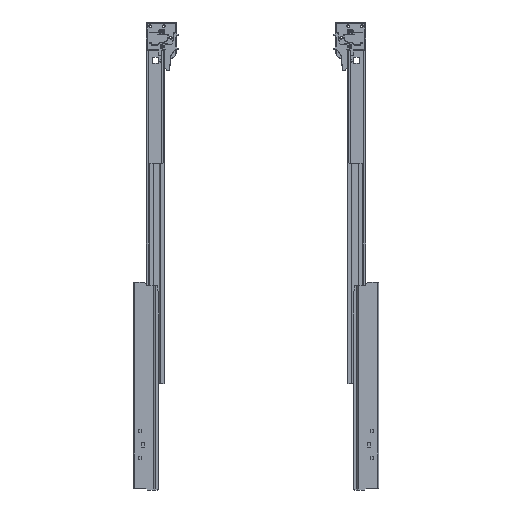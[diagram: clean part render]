
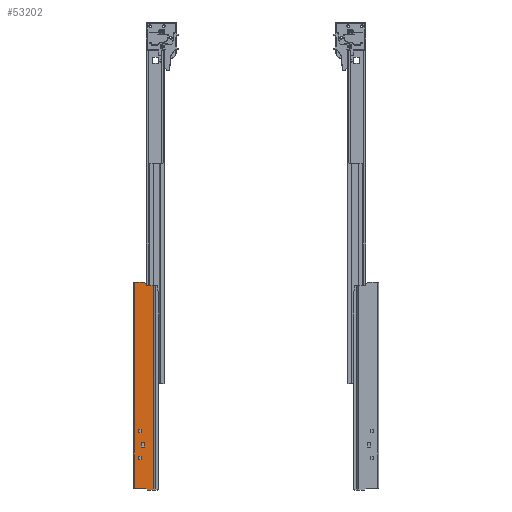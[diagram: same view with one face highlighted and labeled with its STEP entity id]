
A CAD part, front view. The second image highlights one B-rep face of the part: STEP entity #53202.
In plain terms, the highlighted planar face has unit normal (0, -1, 0).
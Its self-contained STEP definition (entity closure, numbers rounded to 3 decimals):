
#4365=FACE_BOUND('',#12797,.T.);
#4366=FACE_BOUND('',#12798,.T.);
#4367=FACE_BOUND('',#12799,.T.);
#6057=CIRCLE('',#56688,2.);
#6058=CIRCLE('',#56689,2.);
#9818=FACE_OUTER_BOUND('',#12796,.T.);
#12796=EDGE_LOOP('',(#33359,#33360,#33361,#33362,#33363,#33364,#33365,#33366,
#33367,#33368));
#12797=EDGE_LOOP('',(#33369,#33370,#33371,#33372));
#12798=EDGE_LOOP('',(#33373,#33374,#33375,#33376));
#12799=EDGE_LOOP('',(#33377,#33378,#33379,#33380));
#16511=LINE('',#77256,#18531);
#16515=LINE('',#77264,#18535);
#16518=LINE('',#77270,#18538);
#16521=LINE('',#77275,#18541);
#16523=LINE('',#77281,#18543);
#16527=LINE('',#77289,#18547);
#16530=LINE('',#77295,#18550);
#16533=LINE('',#77300,#18553);
#16535=LINE('',#77306,#18555);
#16539=LINE('',#77314,#18559);
#16542=LINE('',#77320,#18562);
#16545=LINE('',#77325,#18565);
#16547=LINE('',#77331,#18567);
#16562=LINE('',#77379,#18582);
#16570=LINE('',#77399,#18590);
#16571=LINE('',#77403,#18591);
#16572=LINE('',#77405,#18592);
#16573=LINE('',#77407,#18593);
#16574=LINE('',#77411,#18594);
#16575=LINE('',#77414,#18595);
#18531=VECTOR('',#62850,6.);
#18535=VECTOR('',#62856,3.5);
#18538=VECTOR('',#62861,6.);
#18541=VECTOR('',#62866,3.5);
#18543=VECTOR('',#62872,6.);
#18547=VECTOR('',#62878,3.5);
#18550=VECTOR('',#62883,6.);
#18553=VECTOR('',#62888,3.5);
#18555=VECTOR('',#62894,8.);
#18559=VECTOR('',#62900,5.);
#18562=VECTOR('',#62905,8.);
#18565=VECTOR('',#62910,5.);
#18567=VECTOR('',#62916,4.243);
#18582=VECTOR('',#62951,18.);
#18590=VECTOR('',#62971,336.);
#18591=VECTOR('',#62976,9.5);
#18592=VECTOR('',#62977,334.);
#18593=VECTOR('',#62978,9.672);
#18594=VECTOR('',#62981,5.414);
#18595=VECTOR('',#62984,14.172);
#20551=VERTEX_POINT('',#77254);
#20552=VERTEX_POINT('',#77255);
#20555=VERTEX_POINT('',#77263);
#20557=VERTEX_POINT('',#77269);
#20559=VERTEX_POINT('',#77279);
#20560=VERTEX_POINT('',#77280);
#20563=VERTEX_POINT('',#77288);
#20565=VERTEX_POINT('',#77294);
#20567=VERTEX_POINT('',#77304);
#20568=VERTEX_POINT('',#77305);
#20571=VERTEX_POINT('',#77313);
#20573=VERTEX_POINT('',#77319);
#20575=VERTEX_POINT('',#77329);
#20576=VERTEX_POINT('',#77330);
#20599=VERTEX_POINT('',#77378);
#20605=VERTEX_POINT('',#77398);
#20606=VERTEX_POINT('',#77402);
#20607=VERTEX_POINT('',#77404);
#20608=VERTEX_POINT('',#77406);
#20609=VERTEX_POINT('',#77408);
#20610=VERTEX_POINT('',#77410);
#20611=VERTEX_POINT('',#77412);
#25261=EDGE_CURVE('',#20551,#20552,#16511,.T.);
#25265=EDGE_CURVE('',#20552,#20555,#16515,.T.);
#25268=EDGE_CURVE('',#20555,#20557,#16518,.T.);
#25271=EDGE_CURVE('',#20557,#20551,#16521,.T.);
#25273=EDGE_CURVE('',#20559,#20560,#16523,.T.);
#25277=EDGE_CURVE('',#20560,#20563,#16527,.T.);
#25280=EDGE_CURVE('',#20563,#20565,#16530,.T.);
#25283=EDGE_CURVE('',#20565,#20559,#16533,.T.);
#25285=EDGE_CURVE('',#20567,#20568,#16535,.T.);
#25289=EDGE_CURVE('',#20568,#20571,#16539,.T.);
#25292=EDGE_CURVE('',#20571,#20573,#16542,.T.);
#25295=EDGE_CURVE('',#20573,#20567,#16545,.T.);
#25297=EDGE_CURVE('',#20575,#20576,#16547,.T.);
#25321=EDGE_CURVE('',#20599,#20575,#16562,.T.);
#25331=EDGE_CURVE('',#20605,#20599,#16570,.T.);
#25333=EDGE_CURVE('',#20606,#20576,#16571,.T.);
#25334=EDGE_CURVE('',#20607,#20606,#16572,.T.);
#25335=EDGE_CURVE('',#20607,#20608,#16573,.T.);
#25336=EDGE_CURVE('',#20609,#20608,#6057,.T.);
#25337=EDGE_CURVE('',#20609,#20610,#16574,.T.);
#25338=EDGE_CURVE('',#20611,#20610,#6058,.T.);
#25339=EDGE_CURVE('',#20605,#20611,#16575,.T.);
#33359=ORIENTED_EDGE('',*,*,#25321,.T.);
#33360=ORIENTED_EDGE('',*,*,#25297,.T.);
#33361=ORIENTED_EDGE('',*,*,#25333,.F.);
#33362=ORIENTED_EDGE('',*,*,#25334,.F.);
#33363=ORIENTED_EDGE('',*,*,#25335,.T.);
#33364=ORIENTED_EDGE('',*,*,#25336,.F.);
#33365=ORIENTED_EDGE('',*,*,#25337,.T.);
#33366=ORIENTED_EDGE('',*,*,#25338,.F.);
#33367=ORIENTED_EDGE('',*,*,#25339,.F.);
#33368=ORIENTED_EDGE('',*,*,#25331,.T.);
#33369=ORIENTED_EDGE('',*,*,#25261,.T.);
#33370=ORIENTED_EDGE('',*,*,#25265,.T.);
#33371=ORIENTED_EDGE('',*,*,#25268,.T.);
#33372=ORIENTED_EDGE('',*,*,#25271,.T.);
#33373=ORIENTED_EDGE('',*,*,#25273,.T.);
#33374=ORIENTED_EDGE('',*,*,#25277,.T.);
#33375=ORIENTED_EDGE('',*,*,#25280,.T.);
#33376=ORIENTED_EDGE('',*,*,#25283,.T.);
#33377=ORIENTED_EDGE('',*,*,#25285,.T.);
#33378=ORIENTED_EDGE('',*,*,#25289,.T.);
#33379=ORIENTED_EDGE('',*,*,#25292,.T.);
#33380=ORIENTED_EDGE('',*,*,#25295,.T.);
#49262=PLANE('',#56687);
#53202=ADVANCED_FACE('',(#9818,#4365,#4366,#4367),#49262,.T.);
#56687=AXIS2_PLACEMENT_3D('',#77401,#62974,#62975);
#56688=AXIS2_PLACEMENT_3D('',#77409,#62979,#62980);
#56689=AXIS2_PLACEMENT_3D('',#77413,#62982,#62983);
#62850=DIRECTION('',(0.,0.,1.));
#62856=DIRECTION('',(1.,0.,0.));
#62861=DIRECTION('',(0.,0.,-1.));
#62866=DIRECTION('',(-1.,0.,0.));
#62872=DIRECTION('',(0.,0.,1.));
#62878=DIRECTION('',(1.,0.,0.));
#62883=DIRECTION('',(0.,0.,-1.));
#62888=DIRECTION('',(-1.,0.,0.));
#62894=DIRECTION('',(0.,0.,1.));
#62900=DIRECTION('',(1.,0.,0.));
#62905=DIRECTION('',(0.,0.,-1.));
#62910=DIRECTION('',(-1.,0.,0.));
#62916=DIRECTION('',(0.707,0.,-0.707));
#62951=DIRECTION('',(1.,0.,0.));
#62971=DIRECTION('',(0.,0.,-1.));
#62974=DIRECTION('center_axis',(0.,-1.,0.));
#62975=DIRECTION('ref_axis',(-1.,0.,0.));
#62976=DIRECTION('',(-1.,0.,0.));
#62977=DIRECTION('',(0.,0.,-1.));
#62978=DIRECTION('',(-1.,0.,0.));
#62979=DIRECTION('center_axis',(0.,-1.,0.));
#62980=DIRECTION('ref_axis',(-0.383,0.,-0.924));
#62981=DIRECTION('',(-0.707,0.,0.707));
#62982=DIRECTION('center_axis',(0.,1.,0.));
#62983=DIRECTION('ref_axis',(0.383,0.,0.924));
#62984=DIRECTION('',(1.,0.,0.));
#77254=CARTESIAN_POINT('',(9.,0.,-246.));
#77255=CARTESIAN_POINT('',(9.,0.,-240.));
#77256=CARTESIAN_POINT('',(9.,0.,-120.));
#77263=CARTESIAN_POINT('',(12.5,0.,-240.));
#77264=CARTESIAN_POINT('',(22.5,0.,-240.));
#77269=CARTESIAN_POINT('',(12.5,0.,-246.));
#77270=CARTESIAN_POINT('',(12.5,0.,-123.));
#77275=CARTESIAN_POINT('',(20.75,0.,-246.));
#77279=CARTESIAN_POINT('',(9.,0.,-290.));
#77280=CARTESIAN_POINT('',(9.,0.,-284.));
#77281=CARTESIAN_POINT('',(9.,0.,-142.));
#77288=CARTESIAN_POINT('',(12.5,0.,-284.));
#77289=CARTESIAN_POINT('',(22.5,0.,-284.));
#77294=CARTESIAN_POINT('',(12.5,0.,-290.));
#77295=CARTESIAN_POINT('',(12.5,0.,-145.));
#77300=CARTESIAN_POINT('',(20.75,0.,-290.));
#77304=CARTESIAN_POINT('',(12.5,0.,-269.));
#77305=CARTESIAN_POINT('',(12.5,0.,-261.));
#77306=CARTESIAN_POINT('',(12.5,0.,-130.5));
#77313=CARTESIAN_POINT('',(17.5,0.,-261.));
#77314=CARTESIAN_POINT('',(25.,0.,-261.));
#77319=CARTESIAN_POINT('',(17.5,0.,-269.));
#77320=CARTESIAN_POINT('',(17.5,0.,-134.5));
#77325=CARTESIAN_POINT('',(22.5,0.,-269.));
#77329=CARTESIAN_POINT('',(20.,0.,-336.));
#77330=CARTESIAN_POINT('',(23.,0.,-339.));
#77331=CARTESIAN_POINT('',(-60.875,0.,-255.125));
#77378=CARTESIAN_POINT('',(2.,0.,-336.));
#77379=CARTESIAN_POINT('',(16.25,0.,-336.));
#77398=CARTESIAN_POINT('',(2.,0.,0.));
#77399=CARTESIAN_POINT('',(2.,0.,0.));
#77401=CARTESIAN_POINT('Origin',(32.5,0.,0.));
#77402=CARTESIAN_POINT('',(32.5,0.,-339.));
#77403=CARTESIAN_POINT('',(2.,0.,-339.));
#77404=CARTESIAN_POINT('',(32.5,0.,-5.));
#77405=CARTESIAN_POINT('',(32.5,0.,0.));
#77406=CARTESIAN_POINT('',(22.828,0.,-5.));
#77407=CARTESIAN_POINT('',(35.75,0.,-5.));
#77408=CARTESIAN_POINT('',(21.414,0.,-4.414));
#77409=CARTESIAN_POINT('Origin',(22.828,0.,
-3.));
#77410=CARTESIAN_POINT('',(17.586,0.,-0.586));
#77411=CARTESIAN_POINT('',(23.375,0.,-6.375));
#77412=CARTESIAN_POINT('',(16.172,0.,0.));
#77413=CARTESIAN_POINT('Origin',(16.172,0.,
-2.));
#77414=CARTESIAN_POINT('',(2.,0.,0.));
